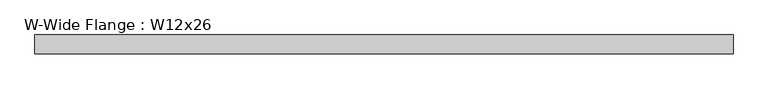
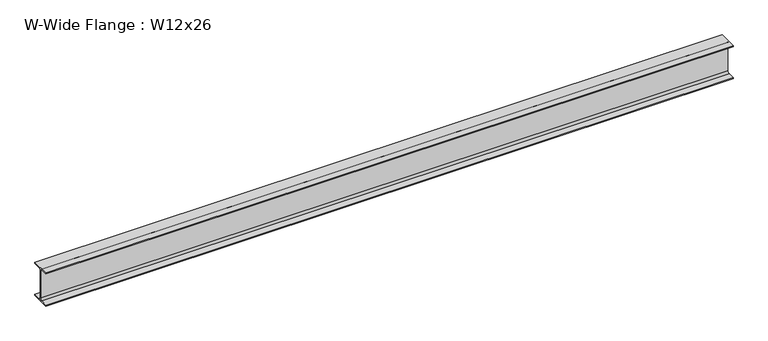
"""IFC4 building model written with IfcOpenShell, lengths in millimetres: beam geometry, W-Wide Flange : W12x26."""

from ifc_helpers import new_model, si_unit, point, frame, frame_2d, origin, place, context, project, spatial, polyline, circle_curve, trimmed, segment, composite_curve, outline, extrude, source, transform, mapped, element, save


def w_wide_flange_w12x26_f3c94e94(model_context):
    return source(origin(), model_context, "Body", "SweptSolid", [
        extrude(outline(composite_curve([segment(polyline([(82.423, -145.288), (82.423, -154.94), (-82.423, -154.94), (-82.423, -145.288), (-20.2565, -145.288)]), True, "CONTINUOUS"), segment(trimmed(circle_curve(frame_2d((-20.2565, -127.9525)), 17.3355), [point((-20.2565, -145.288))], [point((-2.921, -127.9525))], True, "CARTESIAN"), True, "CONTINUOUS"), segment(polyline([(-2.921, -127.9525), (-2.921, 127.9525)]), True, "CONTINUOUS"), segment(trimmed(circle_curve(frame_2d((-20.2565, 127.9525)), 17.3355), [point((-2.921, 127.9525))], [point((-20.2565, 145.288))], True, "CARTESIAN"), True, "CONTINUOUS"), segment(polyline([(-20.2565, 145.288), (-82.423, 145.288), (-82.423, 154.94), (82.423, 154.94), (82.423, 145.288), (20.2565, 145.288)]), True, "CONTINUOUS"), segment(trimmed(circle_curve(frame_2d((20.2565, 127.9525)), 17.3355), [point((20.2565, 145.288))], [point((2.921, 127.9525))], True, "CARTESIAN"), True, "CONTINUOUS"), segment(polyline([(2.921, 127.9525), (2.921, -127.9525)]), True, "CONTINUOUS"), segment(trimmed(circle_curve(frame_2d((20.2565, -127.9525)), 17.3355), [point((2.921, -127.9525))], [point((20.2565, -145.288))], True, "CARTESIAN"), True, "CONTINUOUS"), segment(polyline([(20.2565, -145.288), (82.423, -145.288)]), True, "CONTINUOUS")], self_intersect=False)), frame((-2954.655, 0.0, 0.0), z_axis=(1.0, 0.0, 0.0), x_axis=(0.0, 1.0, 0.0)), (0.0, 0.0, 1.0), 6055.36),
    ])


if __name__ == "__main__":
    model = new_model("IFC4")
    model_context = context("Model", 3, world=origin())
    ifc_project = project(units=[si_unit("LENGTHUNIT", "METRE", prefix="MILLI")], contexts=[model_context])
    site = spatial("IfcSite", under=ifc_project)
    building = spatial("IfcBuilding", under=site)
    placement = place(None, origin())
    w_wide_flange_w12x26_shape = w_wide_flange_w12x26_f3c94e94(model_context)
    element("IfcBeam", 1, ObjectType="W-Wide Flange : W12x26", at=placement, inside=building, context=model_context, shape_type="MappedRepresentation", body=[
        mapped(w_wide_flange_w12x26_shape, transform((0.0, 0.0, 0.0), x_axis=(1.0, 0.0, 0.0), y_axis=(0.0, 1.0, 0.0), z_axis=(0.0, 0.0, 1.0))),
    ])
    save(model, "model.ifc")
